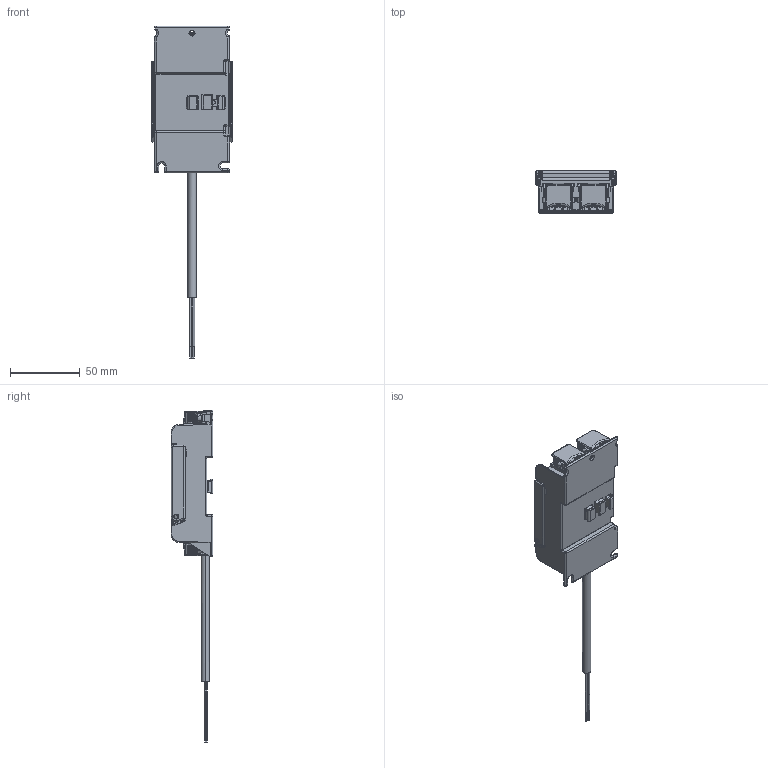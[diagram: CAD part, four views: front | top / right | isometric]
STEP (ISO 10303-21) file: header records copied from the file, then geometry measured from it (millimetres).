
FILE_DESCRIPTION((''),'2;1');
FILE_NAME('15014529Z_DMEC_LINECT-BOX_3P','2021-10-20T12:30:37',('Emanuel.Wild'),(''),'CREO PARAMETRIC BY PTC INC, 2019164','CREO PARAMETRIC BY PTC INC, 2019164','');
FILE_SCHEMA(('CONFIG_CONTROL_DESIGN'));
Products named in the file (1): 15014529Z_DMEC_LINECT-BOX_3P
Bounding box: 57.8 x 30 x 237.25 mm (x, y, z)
Volume: 48220.3 mm3; surface area: 60901.2 mm2
Topology: 2 solids, 2 shells, 3467 faces, 9484 edges, 6004 vertices
Faces by surface type: plane 1727, cylinder 1219, bspline 317, sphere 98, cone 56, torus 50
Entity records: 126289 total; most frequent: CARTESIAN_POINT 42418, ORIENTED_EDGE 18968, DIRECTION 15397, EDGE_CURVE 9484, VECTOR 6125, LINE 6125, VERTEX_POINT 6004, AXIS2_PLACEMENT_3D 4636
